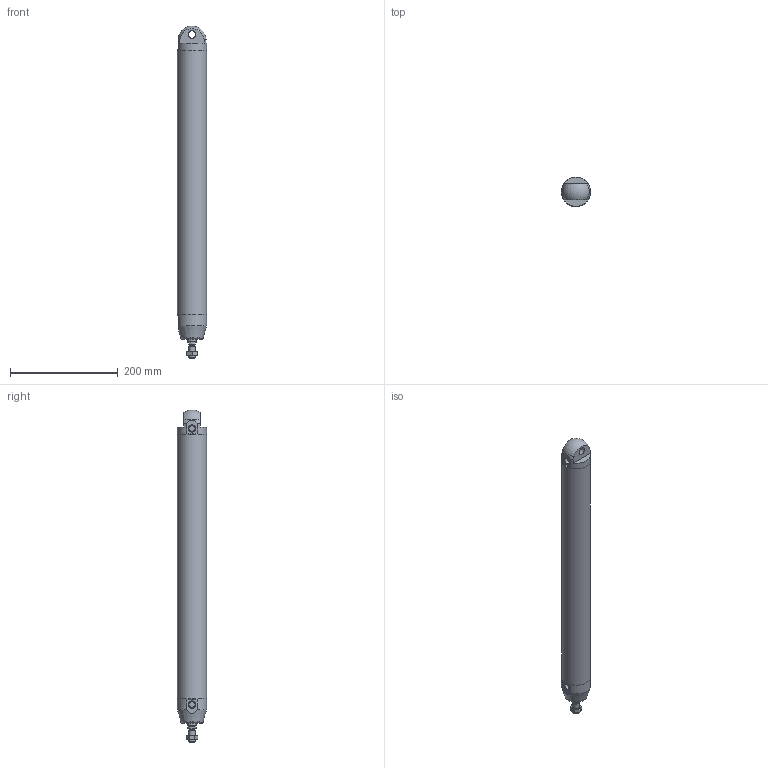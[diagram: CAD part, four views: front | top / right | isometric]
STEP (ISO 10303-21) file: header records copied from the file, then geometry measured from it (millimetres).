
FILE_DESCRIPTION(/* description */ (''),/* implementation_level */ '2;1');
FILE_NAME(/* name */ 'I:\Area Tecnica\Documenti\A-Manieri\_Inventor\12X\12X#A_###_####_#_#\12XAA_050_0450_#_#.stp',/* time_stamp */ '2015-04-22T12:05:04+02:00',/* author */ ('maniean1'),/* organization */ ('Pneumax S.p.A.'),/* preprocessor_version */ 'ST-DEVELOPER v15.2',/* originating_system */ 'Autodesk Inventor 2014',/* authorisation */ '');
FILE_SCHEMA (('AUTOMOTIVE_DESIGN { 1 0 10303 214 3 1 1 }'));
Length unit declared in the file: millimetre
Products named in the file (6): C1250_619-0450; 12X50_613; 12X50_605; S12X50_0450; 12X_50_11; 12XAA_050_0450_#_#
Bounding box: 54 x 54 x 616.83 mm (x, y, z)
Volume: 491651.9 mm3; surface area: 223327.7 mm2
Topology: 5 solids, 5 shells, 59 faces, 126 edges, 81 vertices
Faces by surface type: plane 31, cylinder 14, cone 12, torus 1, sphere 1
Full cylindrical faces by diameter (mm): 10.2 x1, 11.4 x2, 12 x2, 14 x2, 15.6 x1, 16 x1, 50 x2, 54 x3
Entity records: 1560 total; most frequent: CARTESIAN_POINT 288, DIRECTION 266, ORIENTED_EDGE 196, AXIS2_PLACEMENT_3D 120, EDGE_CURVE 98, EDGE_LOOP 94, VERTEX_POINT 76, ADVANCED_FACE 59
